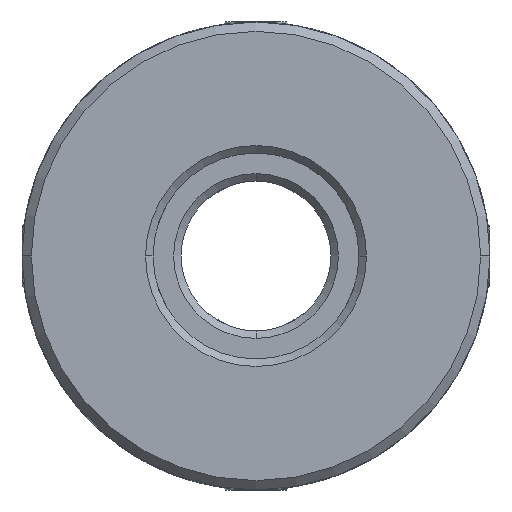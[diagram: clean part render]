
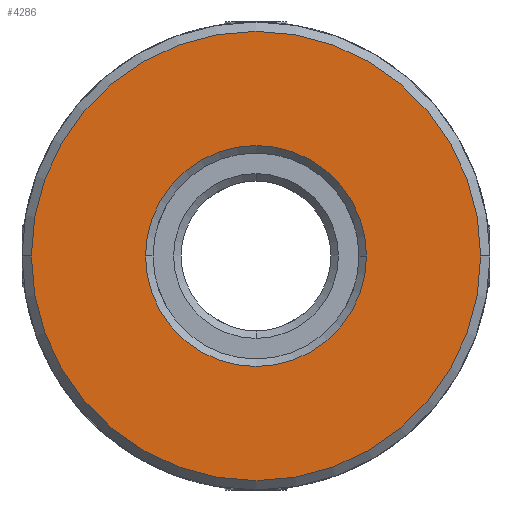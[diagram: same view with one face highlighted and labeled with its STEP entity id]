
A CAD part, front view. The second image highlights one B-rep face of the part: STEP entity #4286.
In plain terms, the highlighted planar face has unit normal (0, -1, 0).
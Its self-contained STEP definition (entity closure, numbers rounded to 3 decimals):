
#153 = CARTESIAN_POINT ( 'NONE',  ( 0., -28., 0. ) ) ;
#214 = AXIS2_PLACEMENT_3D ( 'NONE', #8736, #1095, #8696 ) ;
#316 = DIRECTION ( 'NONE',  ( -1., 0., 0. ) ) ;
#736 = EDGE_LOOP ( 'NONE', ( #1823, #7972 ) ) ;
#795 = DIRECTION ( 'NONE',  ( -1., 0., 0. ) ) ;
#903 = DIRECTION ( 'NONE',  ( 0., 1., 0. ) ) ;
#926 = CARTESIAN_POINT ( 'NONE',  ( 0., -28., 0. ) ) ;
#1089 = DIRECTION ( 'NONE',  ( -1., 0., 0. ) ) ;
#1095 = DIRECTION ( 'NONE',  ( 0., -1., 0. ) ) ;
#1145 = EDGE_CURVE ( 'NONE', #2721, #3834, #5631, .T. ) ;
#1171 = DIRECTION ( 'NONE',  ( 0., 1., 0. ) ) ;
#1336 = EDGE_CURVE ( 'NONE', #3319, #4884, #4068, .T. ) ;
#1526 = CIRCLE ( 'NONE', #214, 12. ) ;
#1823 = ORIENTED_EDGE ( 'NONE', *, *, #1336, .T. ) ;
#2134 = AXIS2_PLACEMENT_3D ( 'NONE', #4005, #5661, #1089 ) ;
#2643 = EDGE_LOOP ( 'NONE', ( #6986, #4250 ) ) ;
#2721 = VERTEX_POINT ( 'NONE', #3422 ) ;
#3319 = VERTEX_POINT ( 'NONE', #7384 ) ;
#3355 = PLANE ( 'NONE',  #3565 ) ;
#3422 = CARTESIAN_POINT ( 'NONE',  ( 5.9, -28., 0. ) ) ;
#3565 = AXIS2_PLACEMENT_3D ( 'NONE', #9582, #1171, #316 ) ;
#3834 = VERTEX_POINT ( 'NONE', #4065 ) ;
#4005 = CARTESIAN_POINT ( 'NONE',  ( 0., -28., 0. ) ) ;
#4065 = CARTESIAN_POINT ( 'NONE',  ( -5.9, -28., 0. ) ) ;
#4068 = CIRCLE ( 'NONE', #2134, 12. ) ;
#4250 = ORIENTED_EDGE ( 'NONE', *, *, #8740, .T. ) ;
#4286 = ADVANCED_FACE ( 'NONE', ( #9200, #9435 ), #3355, .F. ) ;
#4884 = VERTEX_POINT ( 'NONE', #9097 ) ;
#5442 = DIRECTION ( 'NONE',  ( 0., 1., 0. ) ) ;
#5503 = DIRECTION ( 'NONE',  ( -1., 0., 0. ) ) ;
#5578 = CIRCLE ( 'NONE', #6290, 5.9 ) ;
#5631 = CIRCLE ( 'NONE', #9436, 5.9 ) ;
#5661 = DIRECTION ( 'NONE',  ( 0., -1., 0. ) ) ;
#6290 = AXIS2_PLACEMENT_3D ( 'NONE', #153, #903, #5503 ) ;
#6986 = ORIENTED_EDGE ( 'NONE', *, *, #1145, .T. ) ;
#7384 = CARTESIAN_POINT ( 'NONE',  ( -12., -28., 0. ) ) ;
#7972 = ORIENTED_EDGE ( 'NONE', *, *, #8353, .T. ) ;
#8353 = EDGE_CURVE ( 'NONE', #4884, #3319, #1526, .T. ) ;
#8696 = DIRECTION ( 'NONE',  ( -1., 0., 0. ) ) ;
#8736 = CARTESIAN_POINT ( 'NONE',  ( 0., -28., 0. ) ) ;
#8740 = EDGE_CURVE ( 'NONE', #3834, #2721, #5578, .T. ) ;
#9097 = CARTESIAN_POINT ( 'NONE',  ( 12., -28., 0. ) ) ;
#9200 = FACE_OUTER_BOUND ( 'NONE', #736, .T. ) ;
#9435 = FACE_BOUND ( 'NONE', #2643, .T. ) ;
#9436 = AXIS2_PLACEMENT_3D ( 'NONE', #926, #5442, #795 ) ;
#9582 = CARTESIAN_POINT ( 'NONE',  ( -19.597, -28., -50. ) ) ;
